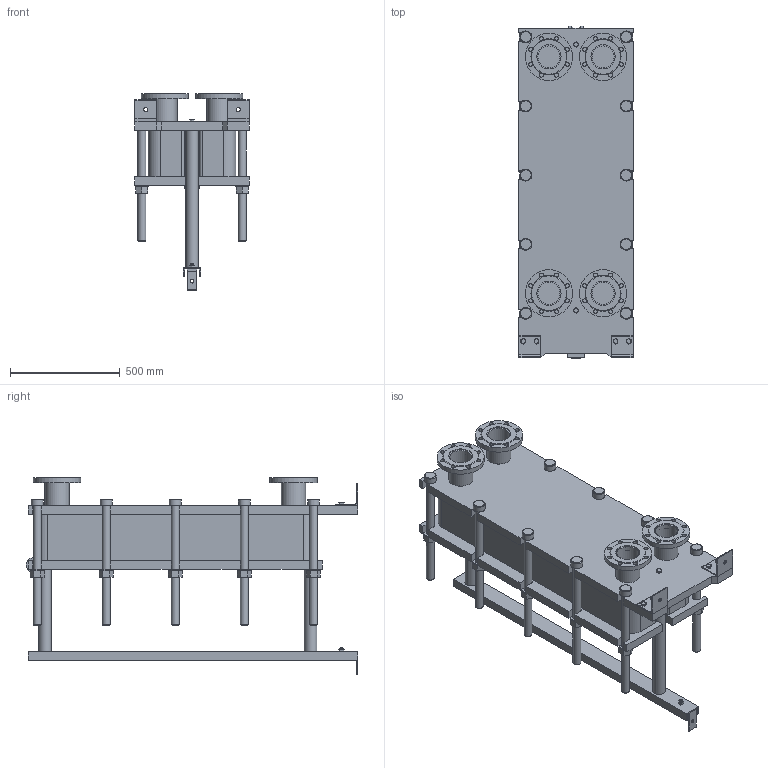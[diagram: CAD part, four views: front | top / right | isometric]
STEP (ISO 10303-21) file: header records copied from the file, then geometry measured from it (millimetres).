
FILE_DESCRIPTION(/* description */ (''),/* implementation_level */ '2;1');
FILE_NAME(/* name */ 'C:\Users\zhuro\Desktop\ENCO\TO\ЭН-04\ЭН-0,5-04-61-1.stp',/* time_stamp */ '2022-06-06T10:49:43+03:00',/* author */ ('zhuro'),/* organization */ (''),/* preprocessor_version */ 'ST-DEVELOPER v18.1',/* originating_system */ 'Autodesk Inventor 2022',/* authorisation */ '');
FILE_SCHEMA (('AUTOMOTIVE_DESIGN { 1 0 10303 214 3 1 1 }'));
Length unit declared in the file: millimetre
Products named in the file (1): ЭН-0,5-04-61-1
Bounding box: 520 x 1510 x 900.5 mm (x, y, z)
Volume: 174280081.2 mm3; surface area: 7497648.3 mm2
Topology: 45 solids, 45 shells, 668 faces, 1611 edges, 1048 vertices
Faces by surface type: plane 457, cylinder 166, cone 39, torus 6
Full cylindrical faces by diameter (mm): 8 x4, 10 x2, 16 x8, 18 x35, 36 x25, 40 x2, 42 x1, 45 x4, 54 x10, 57 x2, 60 x10, 68 x2, 100 x4, 110 x8, 215 x4
Entity records: 23607 total; most frequent: CARTESIAN_POINT 7348, DIRECTION 3371, ORIENTED_EDGE 3142, EDGE_CURVE 1571, AXIS2_PLACEMENT_3D 1199, VERTEX_POINT 1044, LINE 973, VECTOR 973
